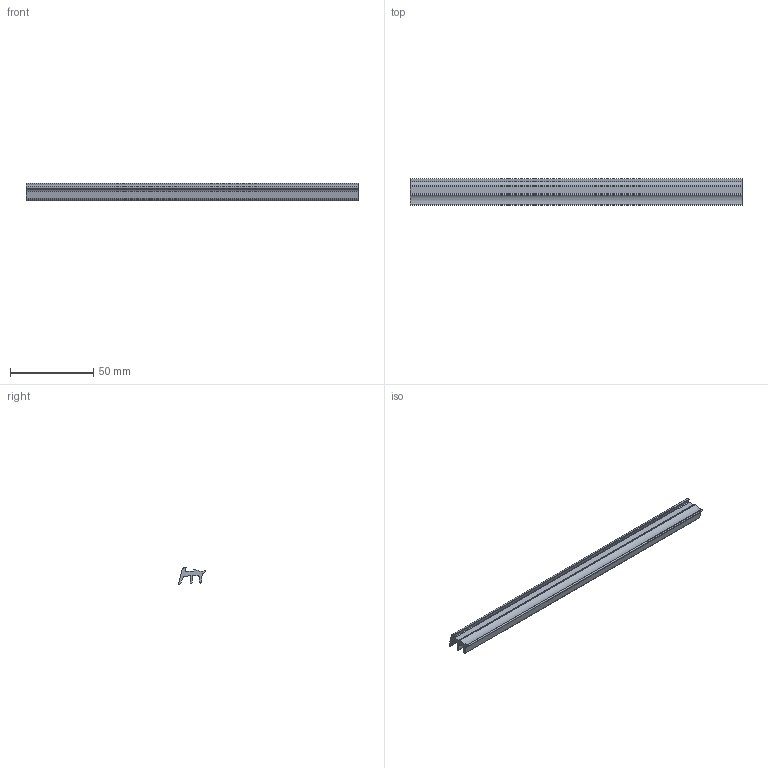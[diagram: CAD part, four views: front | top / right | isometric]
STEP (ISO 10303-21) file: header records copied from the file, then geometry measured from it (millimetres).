
FILE_DESCRIPTION (( 'STEP AP214' ), '1' );
FILE_NAME ('1.6019 Paneelitiiviste 2.STEP', '2024-03-13T11:38:43', ( '' ), ( '' ), 'SwSTEP 2.0', 'SolidWorks 2024', '' );
FILE_SCHEMA (( 'AUTOMOTIVE_DESIGN' ));
Length unit declared in the file: millimetre
Products named in the file (1): 1.6019 Paneelitiiviste 2
Bounding box: 200 x 16 x 10.5 mm (x, y, z)
Volume: 12704.2 mm3; surface area: 13051.4 mm2
Topology: 1 solids, 1 shells, 34 faces, 96 edges, 64 vertices
Faces by surface type: cylinder 18, plane 16
Entity records: 1513 total; most frequent: DIRECTION 202, CARTESIAN_POINT 195, ORIENTED_EDGE 192, EDGE_CURVE 96, AXIS2_PLACEMENT_3D 71, VERTEX_POINT 64, VECTOR 60, LINE 60
